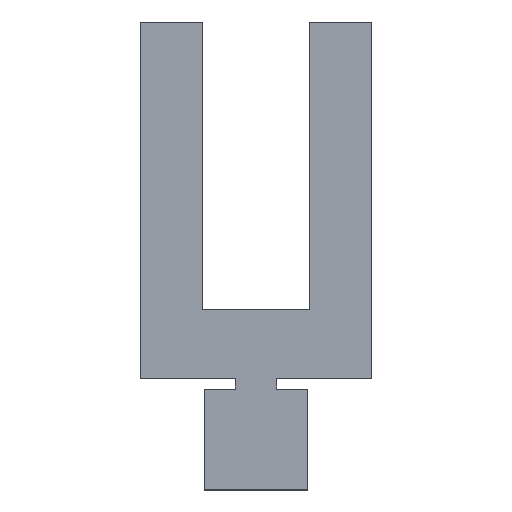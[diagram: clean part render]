
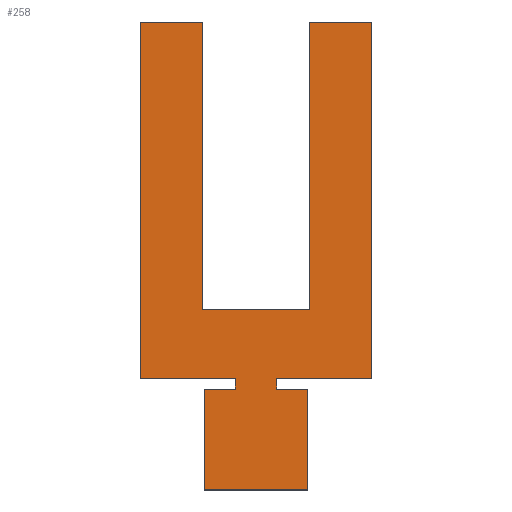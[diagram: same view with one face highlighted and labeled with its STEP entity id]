
A CAD part, top view. The second image highlights one B-rep face of the part: STEP entity #258.
In plain terms, the highlighted planar face has unit normal (0, 0, 1).
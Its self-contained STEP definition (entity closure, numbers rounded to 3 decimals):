
#5 = ORIENTED_EDGE ( 'NONE', *, *, #271, .T. ) ;
#10 = DIRECTION ( 'NONE',  ( 0., 1., 0. ) ) ;
#11 = LINE ( 'NONE', #368, #531 ) ;
#16 = LINE ( 'NONE', #427, #265 ) ;
#18 = VERTEX_POINT ( 'NONE', #81 ) ;
#23 = LINE ( 'NONE', #66, #156 ) ;
#28 = ORIENTED_EDGE ( 'NONE', *, *, #104, .T. ) ;
#29 = CARTESIAN_POINT ( 'NONE',  ( 5., 0., 0. ) ) ;
#38 = CARTESIAN_POINT ( 'NONE',  ( -11.15, 45., 0. ) ) ;
#39 = DIRECTION ( 'NONE',  ( 0., -1., 0. ) ) ;
#46 = VECTOR ( 'NONE', #549, 1000. ) ;
#53 = CARTESIAN_POINT ( 'NONE',  ( 5., 0., 0. ) ) ;
#65 = VERTEX_POINT ( 'NONE', #135 ) ;
#66 = CARTESIAN_POINT ( 'NONE',  ( -11.15, 10.7, 0. ) ) ;
#67 = VERTEX_POINT ( 'NONE', #193 ) ;
#70 = LINE ( 'NONE', #238, #374 ) ;
#81 = CARTESIAN_POINT ( 'NONE',  ( 5.15, 45., 0. ) ) ;
#89 = LINE ( 'NONE', #153, #438 ) ;
#92 = CARTESIAN_POINT ( 'NONE',  ( 2., 10.7, 0. ) ) ;
#101 = ORIENTED_EDGE ( 'NONE', *, *, #123, .T. ) ;
#104 = EDGE_CURVE ( 'NONE', #67, #208, #332, .T. ) ;
#107 = CARTESIAN_POINT ( 'NONE',  ( 11.15, 10.7, 0. ) ) ;
#109 = VERTEX_POINT ( 'NONE', #416 ) ;
#111 = CARTESIAN_POINT ( 'NONE',  ( 0., 0., 0. ) ) ;
#112 = ORIENTED_EDGE ( 'NONE', *, *, #310, .T. ) ;
#114 = DIRECTION ( 'NONE',  ( -1., 0., 0. ) ) ;
#116 = LINE ( 'NONE', #566, #578 ) ;
#119 = DIRECTION ( 'NONE',  ( -1., 0., 0. ) ) ;
#121 = DIRECTION ( 'NONE',  ( -1., 0., 0. ) ) ;
#123 = EDGE_CURVE ( 'NONE', #434, #65, #378, .T. ) ;
#131 = VERTEX_POINT ( 'NONE', #510 ) ;
#135 = CARTESIAN_POINT ( 'NONE',  ( 11.15, 45., 0. ) ) ;
#136 = EDGE_CURVE ( 'NONE', #410, #575, #317, .T. ) ;
#151 = EDGE_CURVE ( 'NONE', #580, #67, #70, .T. ) ;
#152 = VERTEX_POINT ( 'NONE', #187 ) ;
#153 = CARTESIAN_POINT ( 'NONE',  ( -5.15, 17.35, 0. ) ) ;
#156 = VECTOR ( 'NONE', #337, 1000. ) ;
#158 = EDGE_CURVE ( 'NONE', #575, #455, #11, .T. ) ;
#166 = AXIS2_PLACEMENT_3D ( 'NONE', #111, #534, #121 ) ;
#169 = ORIENTED_EDGE ( 'NONE', *, *, #280, .T. ) ;
#173 = VECTOR ( 'NONE', #10, 1000. ) ;
#187 = CARTESIAN_POINT ( 'NONE',  ( 2., 9.7, 0. ) ) ;
#193 = CARTESIAN_POINT ( 'NONE',  ( -5., 0., 0. ) ) ;
#196 = CARTESIAN_POINT ( 'NONE',  ( -5., 0., 0. ) ) ;
#197 = CARTESIAN_POINT ( 'NONE',  ( -5., 9.7, 0. ) ) ;
#199 = EDGE_CURVE ( 'NONE', #455, #109, #23, .T. ) ;
#202 = DIRECTION ( 'NONE',  ( -1., 0., 0. ) ) ;
#203 = VECTOR ( 'NONE', #495, 1000. ) ;
#206 = CARTESIAN_POINT ( 'NONE',  ( 2., 10.7, 0. ) ) ;
#208 = VERTEX_POINT ( 'NONE', #29 ) ;
#209 = LINE ( 'NONE', #335, #476 ) ;
#212 = LINE ( 'NONE', #340, #220 ) ;
#218 = EDGE_CURVE ( 'NONE', #65, #18, #209, .T. ) ;
#220 = VECTOR ( 'NONE', #119, 1000. ) ;
#229 = VECTOR ( 'NONE', #574, 1000. ) ;
#234 = DIRECTION ( 'NONE',  ( 1., 0., 0. ) ) ;
#238 = CARTESIAN_POINT ( 'NONE',  ( -5., 9.7, 0. ) ) ;
#241 = VECTOR ( 'NONE', #234, 1000. ) ;
#248 = FACE_OUTER_BOUND ( 'NONE', #384, .T. ) ;
#258 = ADVANCED_FACE ( 'NONE', ( #248 ), #524, .F. ) ;
#265 = VECTOR ( 'NONE', #377, 1000. ) ;
#266 = ORIENTED_EDGE ( 'NONE', *, *, #218, .T. ) ;
#271 = EDGE_CURVE ( 'NONE', #18, #285, #435, .T. ) ;
#280 = EDGE_CURVE ( 'NONE', #131, #152, #116, .T. ) ;
#285 = VERTEX_POINT ( 'NONE', #568 ) ;
#286 = DIRECTION ( 'NONE',  ( -1., 0., 0. ) ) ;
#292 = EDGE_CURVE ( 'NONE', #109, #550, #527, .T. ) ;
#293 = ORIENTED_EDGE ( 'NONE', *, *, #506, .T. ) ;
#295 = CARTESIAN_POINT ( 'NONE',  ( -2., 10.7, 0. ) ) ;
#310 = EDGE_CURVE ( 'NONE', #550, #580, #212, .T. ) ;
#317 = LINE ( 'NONE', #420, #512 ) ;
#323 = VECTOR ( 'NONE', #432, 1000. ) ;
#327 = ORIENTED_EDGE ( 'NONE', *, *, #151, .T. ) ;
#332 = LINE ( 'NONE', #196, #241 ) ;
#333 = EDGE_CURVE ( 'NONE', #498, #410, #395, .T. ) ;
#334 = ORIENTED_EDGE ( 'NONE', *, *, #158, .T. ) ;
#335 = CARTESIAN_POINT ( 'NONE',  ( 5.15, 45., 0. ) ) ;
#337 = DIRECTION ( 'NONE',  ( 1., 0., 0. ) ) ;
#340 = CARTESIAN_POINT ( 'NONE',  ( -5., 9.7, 0. ) ) ;
#368 = CARTESIAN_POINT ( 'NONE',  ( -11.15, 45., 0. ) ) ;
#372 = ORIENTED_EDGE ( 'NONE', *, *, #292, .T. ) ;
#374 = VECTOR ( 'NONE', #560, 1000. ) ;
#377 = DIRECTION ( 'NONE',  ( 0., 1., 0. ) ) ;
#378 = LINE ( 'NONE', #107, #46 ) ;
#380 = ORIENTED_EDGE ( 'NONE', *, *, #199, .T. ) ;
#383 = CARTESIAN_POINT ( 'NONE',  ( 5.15, 45., 0. ) ) ;
#384 = EDGE_LOOP ( 'NONE', ( #380, #372, #112, #327, #28, #293, #169, #525, #553, #101, #266, #5, #528, #394, #572, #334 ) ) ;
#394 = ORIENTED_EDGE ( 'NONE', *, *, #333, .T. ) ;
#395 = LINE ( 'NONE', #579, #203 ) ;
#410 = VERTEX_POINT ( 'NONE', #448 ) ;
#414 = VERTEX_POINT ( 'NONE', #92 ) ;
#416 = CARTESIAN_POINT ( 'NONE',  ( -2., 10.7, 0. ) ) ;
#417 = EDGE_CURVE ( 'NONE', #285, #498, #89, .T. ) ;
#420 = CARTESIAN_POINT ( 'NONE',  ( -11.15, 45., 0. ) ) ;
#427 = CARTESIAN_POINT ( 'NONE',  ( 2., 10.7, 0. ) ) ;
#432 = DIRECTION ( 'NONE',  ( 1., 0., 0. ) ) ;
#434 = VERTEX_POINT ( 'NONE', #472 ) ;
#435 = LINE ( 'NONE', #383, #501 ) ;
#438 = VECTOR ( 'NONE', #286, 1000. ) ;
#444 = CARTESIAN_POINT ( 'NONE',  ( -2., 9.7, 0. ) ) ;
#448 = CARTESIAN_POINT ( 'NONE',  ( -5.15, 45., 0. ) ) ;
#451 = EDGE_CURVE ( 'NONE', #152, #414, #16, .T. ) ;
#455 = VERTEX_POINT ( 'NONE', #562 ) ;
#459 = CARTESIAN_POINT ( 'NONE',  ( -5.15, 17.35, 0. ) ) ;
#462 = LINE ( 'NONE', #53, #173 ) ;
#469 = DIRECTION ( 'NONE',  ( -1., 0., 0. ) ) ;
#472 = CARTESIAN_POINT ( 'NONE',  ( 11.15, 10.7, 0. ) ) ;
#473 = DIRECTION ( 'NONE',  ( 0., -1., 0. ) ) ;
#476 = VECTOR ( 'NONE', #202, 1000. ) ;
#495 = DIRECTION ( 'NONE',  ( 0., 1., 0. ) ) ;
#498 = VERTEX_POINT ( 'NONE', #459 ) ;
#501 = VECTOR ( 'NONE', #39, 1000. ) ;
#506 = EDGE_CURVE ( 'NONE', #208, #131, #462, .T. ) ;
#510 = CARTESIAN_POINT ( 'NONE',  ( 5., 9.7, 0. ) ) ;
#512 = VECTOR ( 'NONE', #469, 1000. ) ;
#524 = PLANE ( 'NONE',  #166 ) ;
#525 = ORIENTED_EDGE ( 'NONE', *, *, #451, .T. ) ;
#527 = LINE ( 'NONE', #295, #229 ) ;
#528 = ORIENTED_EDGE ( 'NONE', *, *, #417, .T. ) ;
#531 = VECTOR ( 'NONE', #473, 1000. ) ;
#534 = DIRECTION ( 'NONE',  ( 0., 0., -1. ) ) ;
#549 = DIRECTION ( 'NONE',  ( 0., 1., 0. ) ) ;
#550 = VERTEX_POINT ( 'NONE', #444 ) ;
#553 = ORIENTED_EDGE ( 'NONE', *, *, #573, .T. ) ;
#560 = DIRECTION ( 'NONE',  ( 0., -1., 0. ) ) ;
#562 = CARTESIAN_POINT ( 'NONE',  ( -11.15, 10.7, 0. ) ) ;
#566 = CARTESIAN_POINT ( 'NONE',  ( 2., 9.7, 0. ) ) ;
#568 = CARTESIAN_POINT ( 'NONE',  ( 5.15, 17.35, 0. ) ) ;
#572 = ORIENTED_EDGE ( 'NONE', *, *, #136, .T. ) ;
#573 = EDGE_CURVE ( 'NONE', #414, #434, #576, .T. ) ;
#574 = DIRECTION ( 'NONE',  ( 0., -1., 0. ) ) ;
#575 = VERTEX_POINT ( 'NONE', #38 ) ;
#576 = LINE ( 'NONE', #206, #323 ) ;
#578 = VECTOR ( 'NONE', #114, 1000. ) ;
#579 = CARTESIAN_POINT ( 'NONE',  ( -5.15, 45., 0. ) ) ;
#580 = VERTEX_POINT ( 'NONE', #197 ) ;
